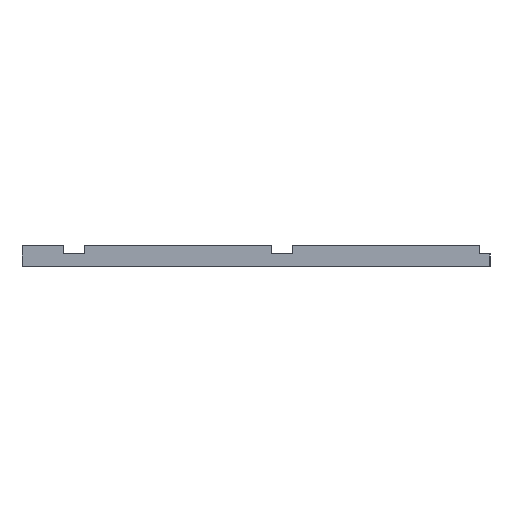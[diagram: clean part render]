
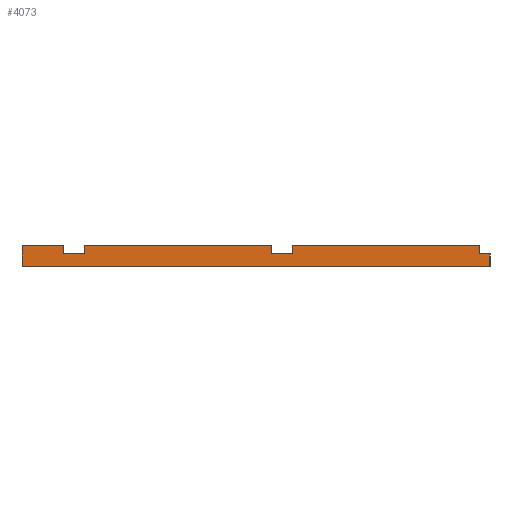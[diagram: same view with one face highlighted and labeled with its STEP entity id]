
A CAD part, left-side view. The second image highlights one B-rep face of the part: STEP entity #4073.
In plain terms, the highlighted planar face has unit normal (-1, 0, 0).
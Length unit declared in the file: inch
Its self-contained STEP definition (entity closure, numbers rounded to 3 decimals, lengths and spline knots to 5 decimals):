
#2687=CARTESIAN_POINT('',(0.0,0.125,0.0));
#2688=VERTEX_POINT('',#2687);
#2695=CARTESIAN_POINT('',(0.0,0.125,-0.1));
#2696=VERTEX_POINT('',#2695);
#2697=CARTESIAN_POINT('',(0.0,0.125,-0.1));
#2698=DIRECTION('',(0.0,0.0,1.0));
#2699=VECTOR('',#2698,0.1);
#2700=LINE('',#2697,#2699);
#2701=EDGE_CURVE('',#2696,#2688,#2700,.T.);
#2799=CARTESIAN_POINT('',(0.0,2.375,0.0));
#2800=VERTEX_POINT('',#2799);
#2807=CARTESIAN_POINT('',(0.0,2.375,0.0));
#2808=DIRECTION('',(0.0,-1.0,0.0));
#2809=VECTOR('',#2808,2.25);
#2810=LINE('',#2807,#2809);
#2811=EDGE_CURVE('',#2800,#2688,#2810,.T.);
#2881=CARTESIAN_POINT('',(0.0,2.375,-0.1));
#2882=VERTEX_POINT('',#2881);
#2889=CARTESIAN_POINT('',(0.0,2.375,0.0));
#2890=DIRECTION('',(0.0,0.0,-1.0));
#2891=VECTOR('',#2890,0.1);
#2892=LINE('',#2889,#2891);
#2893=EDGE_CURVE('',#2800,#2882,#2892,.T.);
#2956=CARTESIAN_POINT('',(0.0,2.625,0.0));
#2957=VERTEX_POINT('',#2956);
#2964=CARTESIAN_POINT('',(0.0,2.625,-0.1));
#2965=VERTEX_POINT('',#2964);
#2966=CARTESIAN_POINT('',(0.0,2.625,-0.1));
#2967=DIRECTION('',(0.0,0.0,1.0));
#2968=VECTOR('',#2967,0.1);
#2969=LINE('',#2966,#2968);
#2970=EDGE_CURVE('',#2965,#2957,#2969,.T.);
#3058=CARTESIAN_POINT('',(0.0,4.875,0.0));
#3059=VERTEX_POINT('',#3058);
#3066=CARTESIAN_POINT('',(0.0,4.875,0.0));
#3067=DIRECTION('',(0.0,-1.0,0.0));
#3068=VECTOR('',#3067,2.25);
#3069=LINE('',#3066,#3068);
#3070=EDGE_CURVE('',#3059,#2957,#3069,.T.);
#3119=CARTESIAN_POINT('',(0.0,4.875,-0.1));
#3120=VERTEX_POINT('',#3119);
#3127=CARTESIAN_POINT('',(0.0,4.875,0.0));
#3128=DIRECTION('',(0.0,0.0,-1.0));
#3129=VECTOR('',#3128,0.1);
#3130=LINE('',#3127,#3129);
#3131=EDGE_CURVE('',#3059,#3120,#3130,.T.);
#3182=CARTESIAN_POINT('',(0.0,5.125,0.0));
#3183=VERTEX_POINT('',#3182);
#3190=CARTESIAN_POINT('',(0.0,5.125,-0.1));
#3191=VERTEX_POINT('',#3190);
#3192=CARTESIAN_POINT('',(0.0,5.125,-0.1));
#3193=DIRECTION('',(0.0,0.0,1.0));
#3194=VECTOR('',#3193,0.1);
#3195=LINE('',#3192,#3194);
#3196=EDGE_CURVE('',#3191,#3183,#3195,.T.);
#3426=CARTESIAN_POINT('',(0.0,4.875,-0.1));
#3427=DIRECTION('',(0.0,1.0,0.0));
#3428=VECTOR('',#3427,0.25);
#3429=LINE('',#3426,#3428);
#3430=EDGE_CURVE('',#3120,#3191,#3429,.T.);
#3443=CARTESIAN_POINT('',(0.0,2.375,-0.1));
#3444=DIRECTION('',(0.0,1.0,0.0));
#3445=VECTOR('',#3444,0.25);
#3446=LINE('',#3443,#3445);
#3447=EDGE_CURVE('',#2882,#2965,#3446,.T.);
#3460=CARTESIAN_POINT('',(0.0,0.0,-0.1));
#3461=VERTEX_POINT('',#3460);
#3462=CARTESIAN_POINT('',(0.0,0.0,-0.1));
#3463=DIRECTION('',(0.0,1.0,0.0));
#3464=VECTOR('',#3463,0.125);
#3465=LINE('',#3462,#3464);
#3466=EDGE_CURVE('',#3461,#2696,#3465,.T.);
#3603=CARTESIAN_POINT('',(0.0,5.625,0.0));
#3604=VERTEX_POINT('',#3603);
#3611=CARTESIAN_POINT('',(0.0,5.625,0.0));
#3612=DIRECTION('',(0.0,-1.0,0.0));
#3613=VECTOR('',#3612,0.5);
#3614=LINE('',#3611,#3613);
#3615=EDGE_CURVE('',#3604,#3183,#3614,.T.);
#3684=CARTESIAN_POINT('',(0.0,5.625,-0.25));
#3685=VERTEX_POINT('',#3684);
#3692=CARTESIAN_POINT('',(0.0,5.625,0.0));
#3693=DIRECTION('',(0.0,0.0,-1.0));
#3694=VECTOR('',#3693,0.25);
#3695=LINE('',#3692,#3694);
#3696=EDGE_CURVE('',#3604,#3685,#3695,.T.);
#4018=CARTESIAN_POINT('',(0.0,0.0,-0.25));
#4019=VERTEX_POINT('',#4018);
#4020=CARTESIAN_POINT('',(0.0,0.0,-0.1));
#4021=DIRECTION('',(0.0,0.0,-1.0));
#4022=VECTOR('',#4021,0.15);
#4023=LINE('',#4020,#4022);
#4024=EDGE_CURVE('',#3461,#4019,#4023,.T.);
#4047=CARTESIAN_POINT('',(0.0,5.625,0.0));
#4048=DIRECTION('',(-1.0,0.0,0.0));
#4049=DIRECTION('',(0.0,0.0,1.0));
#4050=AXIS2_PLACEMENT_3D('',#4047,#4048,#4049);
#4051=PLANE('',#4050);
#4052=ORIENTED_EDGE('',*,*,#3196,.T.);
#4053=ORIENTED_EDGE('',*,*,#3615,.F.);
#4054=ORIENTED_EDGE('',*,*,#3696,.T.);
#4055=CARTESIAN_POINT('',(0.0,5.625,-0.25));
#4056=DIRECTION('',(0.0,-1.0,0.0));
#4057=VECTOR('',#4056,5.625);
#4058=LINE('',#4055,#4057);
#4059=EDGE_CURVE('',#3685,#4019,#4058,.T.);
#4060=ORIENTED_EDGE('',*,*,#4059,.T.);
#4061=ORIENTED_EDGE('',*,*,#4024,.F.);
#4062=ORIENTED_EDGE('',*,*,#3466,.T.);
#4063=ORIENTED_EDGE('',*,*,#2701,.T.);
#4064=ORIENTED_EDGE('',*,*,#2811,.F.);
#4065=ORIENTED_EDGE('',*,*,#2893,.T.);
#4066=ORIENTED_EDGE('',*,*,#3447,.T.);
#4067=ORIENTED_EDGE('',*,*,#2970,.T.);
#4068=ORIENTED_EDGE('',*,*,#3070,.F.);
#4069=ORIENTED_EDGE('',*,*,#3131,.T.);
#4070=ORIENTED_EDGE('',*,*,#3430,.T.);
#4071=EDGE_LOOP('',(#4052,#4053,#4054,#4060,#4061,#4062,#4063,#4064,#4065,#4066,#4067,#4068,#4069,#4070));
#4072=FACE_OUTER_BOUND('',#4071,.T.);
#4073=ADVANCED_FACE('',(#4072),#4051,.T.);
